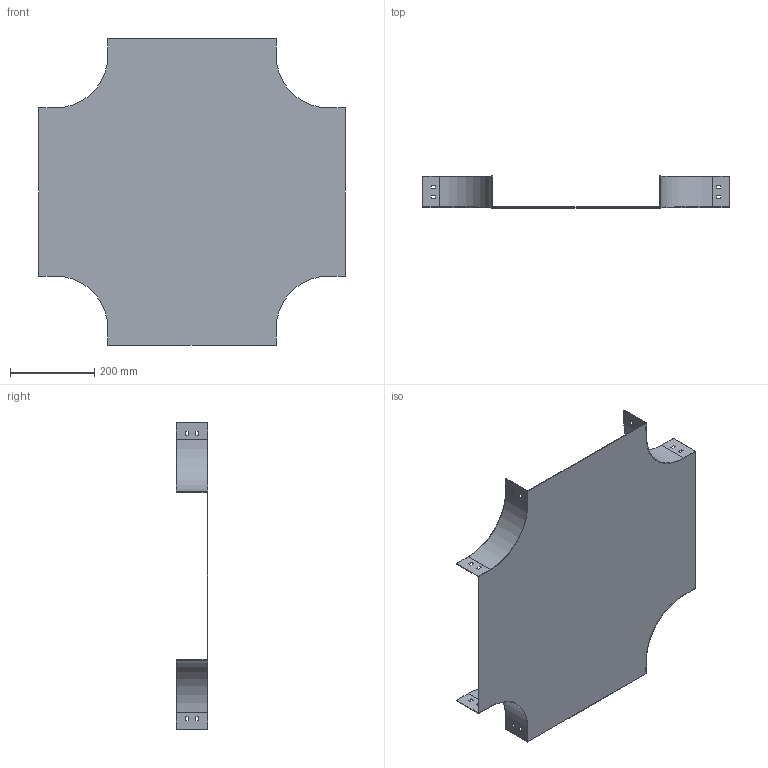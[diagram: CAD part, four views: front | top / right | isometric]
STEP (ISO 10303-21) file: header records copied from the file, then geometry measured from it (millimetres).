
FILE_DESCRIPTION (( 'STEP AP214' ), '1' );
FILE_NAME ('PC_407.step', '2025-07-16T09:22:35', ( '' ), ( '' ), 'SwSTEP 2.0', 'SolidWorks 2023', '' );
FILE_SCHEMA (( 'AUTOMOTIVE_DESIGN' ));
Length unit declared in the file: millimetre
Products named in the file (1): PC_407
Bounding box: 730 x 75 x 730 mm (x, y, z)
Volume: 776828.6 mm3; surface area: 1041527.6 mm2
Topology: 1 solids, 1 shells, 98 faces, 288 edges, 192 vertices
Faces by surface type: plane 90, cylinder 8
Entity records: 3295 total; most frequent: CARTESIAN_POINT 579, ORIENTED_EDGE 576, DIRECTION 502, EDGE_CURVE 288, LINE 272, VECTOR 272, VERTEX_POINT 192, EDGE_LOOP 130
